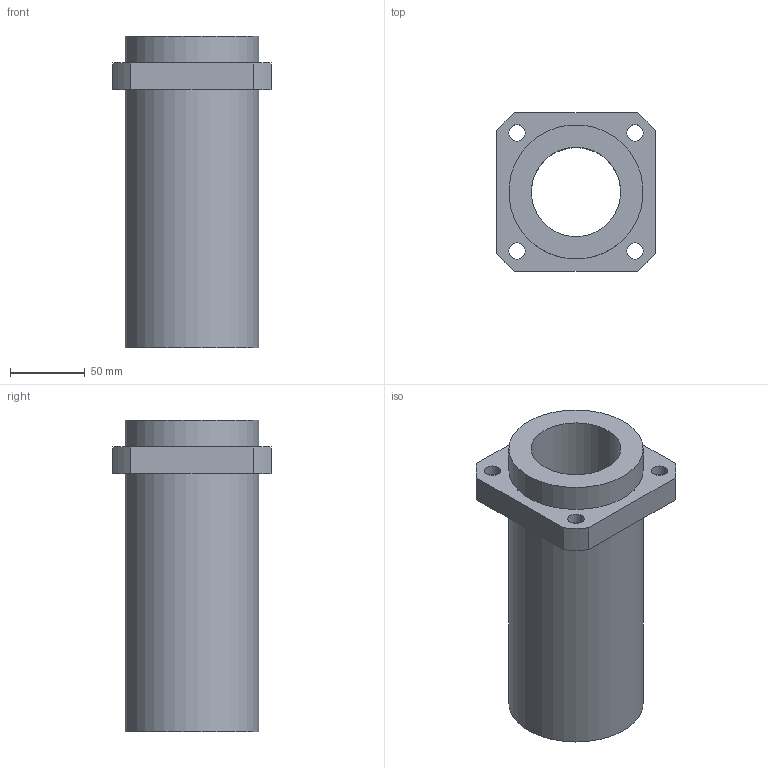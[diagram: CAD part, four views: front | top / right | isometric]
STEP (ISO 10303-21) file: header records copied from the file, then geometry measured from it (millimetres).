
FILE_DESCRIPTION(/* description */ (''),/* implementation_level */ '2;1');
FILE_NAME(/* name */ 'LMKP60LUU',/* time_stamp */ '2019-07-10T14:02:54+02:00',/* author */ ('VĂ©gh MĂˇtĂ©'),/* organization */ ('Bearing Kft'),/* preprocessor_version */ 'ST-DEVELOPER v16.7',/* originating_system */ 'DEX',/* authorisation */ $);
FILE_SCHEMA (('AUTOMOTIVE_DESIGN {1 0 10303 214 3 1 1}'));
Length unit declared in the file: millimetre
Products named in the file (1): LMKP60LUU
Bounding box: 106 x 106 x 209 mm (x, y, z)
Volume: 808944.9 mm3; surface area: 119405.5 mm2
Topology: 1 solids, 1 shells, 340 faces, 850 edges, 568 vertices
Faces by surface type: plane 261, bspline 62, cylinder 17
Full cylindrical faces by diameter (mm): 11 x4, 17 x4, 60 x1, 90 x2
Entity records: 13163 total; most frequent: CARTESIAN_POINT 5434, ORIENTED_EDGE 1662, DIRECTION 1299, EDGE_CURVE 831, LINE 673, VECTOR 673, VERTEX_POINT 564, EDGE_LOOP 421
